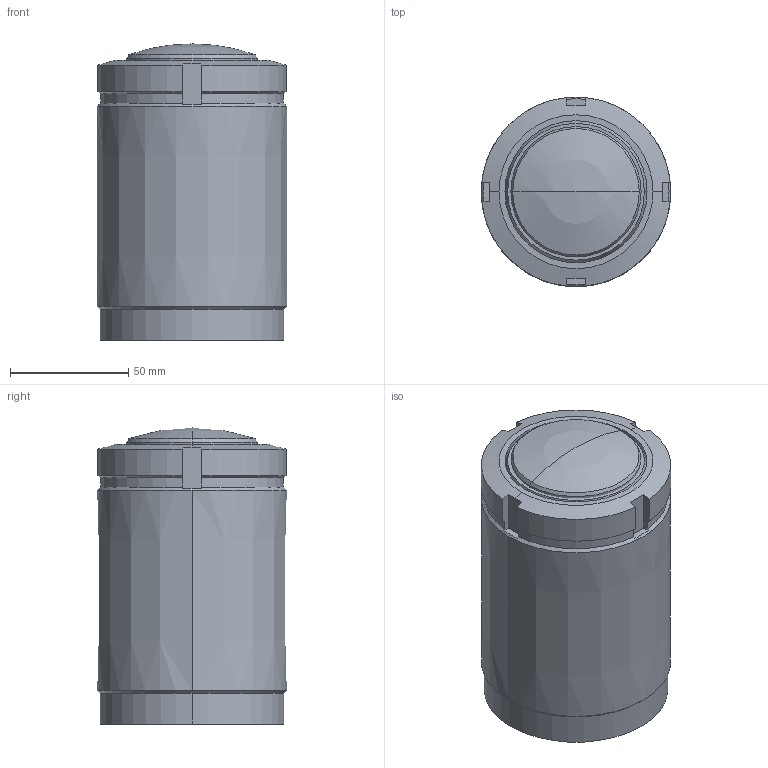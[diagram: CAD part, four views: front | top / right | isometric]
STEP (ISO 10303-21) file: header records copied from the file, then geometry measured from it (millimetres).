
FILE_DESCRIPTION((' '),'2;1');
FILE_NAME( 'TGP80-RL.x_t.stp', '2025-02-10T16:03:59', (' '), ('--- Datakit www.datakit.com---'), ' Datakit CrossCadWare V2024.1 Dec 21 2023', 'Mastercam 2025', ' ');
FILE_SCHEMA(('AUTOMOTIVE_DESIGN { 1 0 10303 214 1 1 1 1 }'));
Length unit declared in the file: millimetre
Products named in the file (1): TGP80-RL
Bounding box: 80 x 80 x 125 mm (x, y, z)
Volume: 680631.9 mm3; surface area: 54202.1 mm2
Topology: 2 solids, 2 shells, 73 faces, 181 edges, 115 vertices
Faces by surface type: plane 25, cone 22, cylinder 20, torus 4, sphere 2
Entity records: 2260 total; most frequent: CARTESIAN_POINT 504, DIRECTION 376, ORIENTED_EDGE 354, EDGE_CURVE 177, AXIS2_PLACEMENT_3D 155, VERTEX_POINT 115, CIRCLE 81, EDGE_LOOP 80
